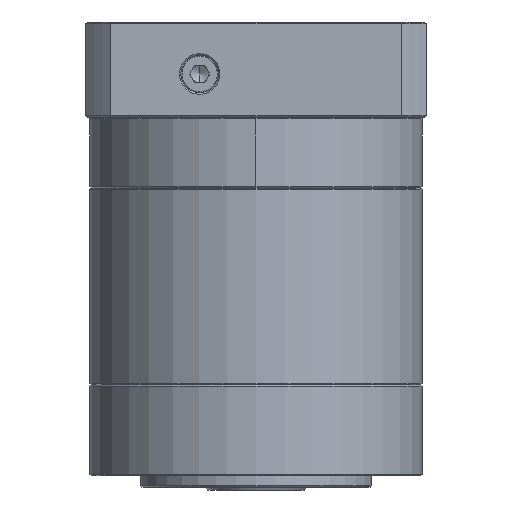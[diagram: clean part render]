
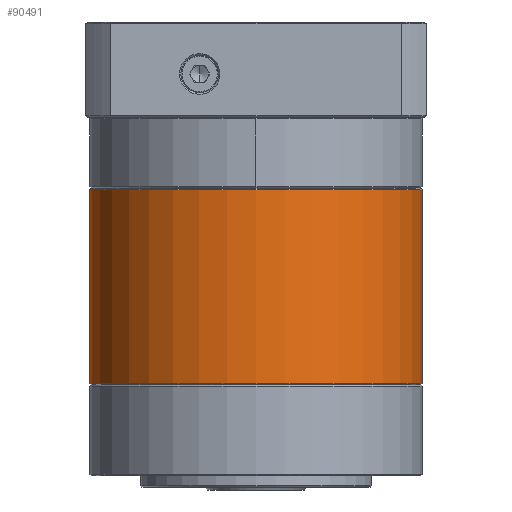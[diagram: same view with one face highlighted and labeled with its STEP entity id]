
A CAD part, front view. The second image highlights one B-rep face of the part: STEP entity #90491.
In plain terms, the highlighted cylindrical face has radius 57.5 mm (diameter 115 mm), a partial arc.
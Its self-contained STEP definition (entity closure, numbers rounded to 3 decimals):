
#339 = DIRECTION ( 'NONE',  ( -1., 0., 0. ) ) ;
#1747 = DIRECTION ( 'NONE',  ( 0., 0., 1. ) ) ;
#4086 = AXIS2_PLACEMENT_3D ( 'NONE', #34732, #1747, #45476 ) ;
#5304 = EDGE_CURVE ( 'NONE', #90445, #130023, #97669, .T. ) ;
#6490 = CARTESIAN_POINT ( 'NONE',  ( 114.334, 42.336, -59.743 ) ) ;
#7452 = CIRCLE ( 'NONE', #4086, 57.5 ) ;
#13699 = LINE ( 'NONE', #130234, #124849 ) ;
#15850 = DIRECTION ( 'NONE',  ( -1., 0., 0. ) ) ;
#19575 = EDGE_CURVE ( 'NONE', #130023, #60481, #134938, .T. ) ;
#27272 = DIRECTION ( 'NONE',  ( -1., 0., 0. ) ) ;
#29991 = CYLINDRICAL_SURFACE ( 'NONE', #110728, 57.5 ) ;
#31739 = ORIENTED_EDGE ( 'NONE', *, *, #19575, .T. ) ;
#32393 = CARTESIAN_POINT ( 'NONE',  ( 56.834, 42.336, -59.743 ) ) ;
#32829 = AXIS2_PLACEMENT_3D ( 'NONE', #32393, #54023, #339 ) ;
#34732 = CARTESIAN_POINT ( 'NONE',  ( 56.834, 42.336, -126.955 ) ) ;
#35548 = ORIENTED_EDGE ( 'NONE', *, *, #54149, .F. ) ;
#40316 = EDGE_CURVE ( 'NONE', #48859, #115488, #7452, .T. ) ;
#41092 = VECTOR ( 'NONE', #51003, 1000. ) ;
#45476 = DIRECTION ( 'NONE',  ( -1., 0., 0. ) ) ;
#48859 = VERTEX_POINT ( 'NONE', #109666 ) ;
#51003 = DIRECTION ( 'NONE',  ( 0., 0., -1. ) ) ;
#52191 = DIRECTION ( 'NONE',  ( 0., 0., -1. ) ) ;
#54023 = DIRECTION ( 'NONE',  ( 0., 0., -1. ) ) ;
#54149 = EDGE_CURVE ( 'NONE', #90445, #115488, #133638, .T. ) ;
#55958 = ORIENTED_EDGE ( 'NONE', *, *, #40316, .T. ) ;
#58691 = CARTESIAN_POINT ( 'NONE',  ( 56.834, 42.336, -59.743 ) ) ;
#60481 = VERTEX_POINT ( 'NONE', #83274 ) ;
#71296 = CARTESIAN_POINT ( 'NONE',  ( 114.334, 42.336, -126.955 ) ) ;
#73127 = ORIENTED_EDGE ( 'NONE', *, *, #5304, .T. ) ;
#74312 = EDGE_CURVE ( 'NONE', #60481, #48859, #13699, .T. ) ;
#76904 = EDGE_LOOP ( 'NONE', ( #35548, #73127, #31739, #102734, #55958 ) ) ;
#77098 = DIRECTION ( 'NONE',  ( 0., 0., -1. ) ) ;
#82093 = CARTESIAN_POINT ( 'NONE',  ( 114.334, 42.336, -59.243 ) ) ;
#83274 = CARTESIAN_POINT ( 'NONE',  ( -0.666, 42.336, -59.743 ) ) ;
#84003 = FACE_OUTER_BOUND ( 'NONE', #76904, .T. ) ;
#90445 = VERTEX_POINT ( 'NONE', #6490 ) ;
#90491 = ADVANCED_FACE ( 'NONE', ( #84003 ), #29991, .T. ) ;
#92951 = CARTESIAN_POINT ( 'NONE',  ( 56.834, -15.164, -59.743 ) ) ;
#97669 = CIRCLE ( 'NONE', #127786, 57.5 ) ;
#102734 = ORIENTED_EDGE ( 'NONE', *, *, #74312, .T. ) ;
#109666 = CARTESIAN_POINT ( 'NONE',  ( -0.666, 42.336, -126.955 ) ) ;
#110728 = AXIS2_PLACEMENT_3D ( 'NONE', #114662, #52191, #27272 ) ;
#114662 = CARTESIAN_POINT ( 'NONE',  ( 56.834, 42.336, -59.243 ) ) ;
#115488 = VERTEX_POINT ( 'NONE', #71296 ) ;
#124849 = VECTOR ( 'NONE', #77098, 1000. ) ;
#127786 = AXIS2_PLACEMENT_3D ( 'NONE', #58691, #133877, #15850 ) ;
#130023 = VERTEX_POINT ( 'NONE', #92951 ) ;
#130234 = CARTESIAN_POINT ( 'NONE',  ( -0.666, 42.336, -59.243 ) ) ;
#133638 = LINE ( 'NONE', #82093, #41092 ) ;
#133877 = DIRECTION ( 'NONE',  ( 0., 0., -1. ) ) ;
#134938 = CIRCLE ( 'NONE', #32829, 57.5 ) ;
